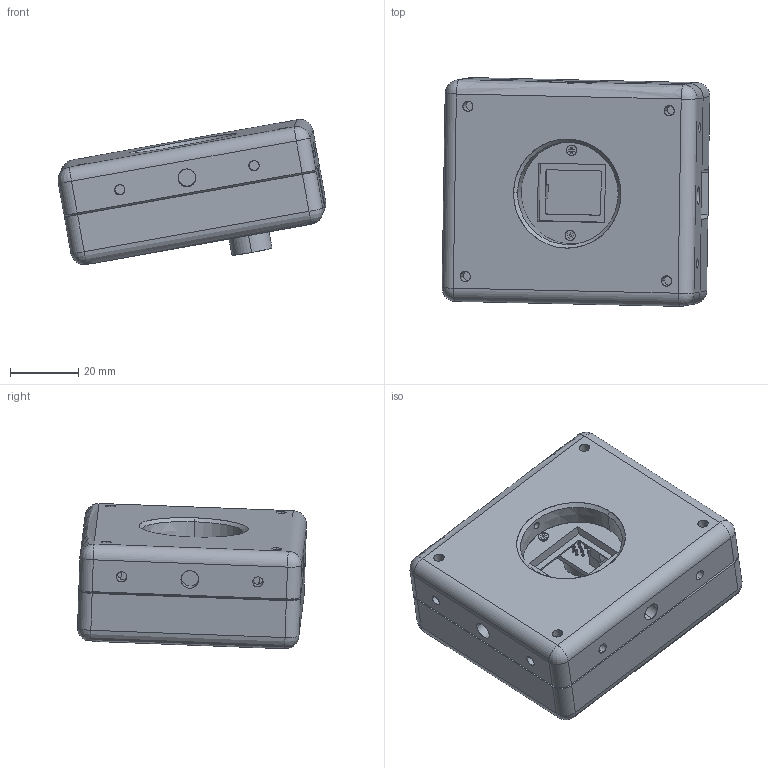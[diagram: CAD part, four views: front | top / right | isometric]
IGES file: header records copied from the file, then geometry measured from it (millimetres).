
Start section: SolidWorks IGES FILE using analytic representation for surfaces
Global section: file name: W:\tucakov\dragonfly\CAD\dragonfly EXRESS box 2\public\dragonfly EXP box.IGS; native system: SolidWorks 2003 by SolidWorks Corporation; preprocessor: Version 5.3; author: user; date: 050118.170031; units: millimetre
Bounding box: 78.55 x 67.15 x 42.55 mm (x, y, z)
Surface area: 38182.3 mm2 (no closed solid volume)
Topology: 0 solids, 0 shells, 593 faces, 8392 edges, 8392 vertices
Faces by surface type: bspline 298, revolution 295
